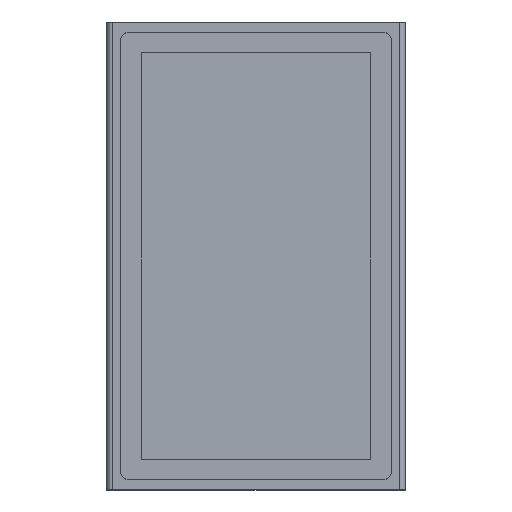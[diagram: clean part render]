
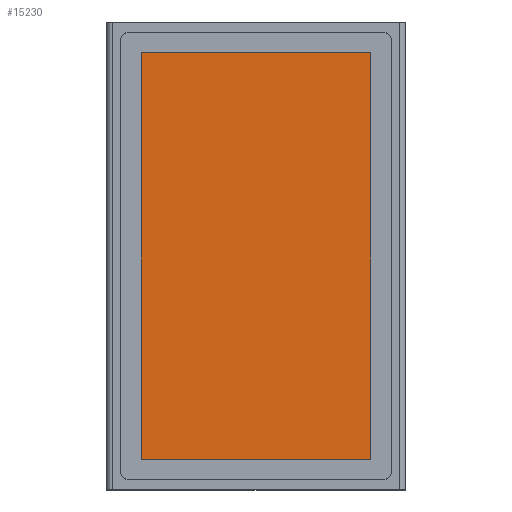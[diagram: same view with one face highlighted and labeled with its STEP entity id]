
A CAD part, top view. The second image highlights one B-rep face of the part: STEP entity #15230.
In plain terms, the highlighted planar face has unit normal (0, 0, 1).
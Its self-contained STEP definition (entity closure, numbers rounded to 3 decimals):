
#3052=DIRECTION('',(0.,1.,0.));
#3053=VECTOR('',#3052,410.4);
#3054=CARTESIAN_POINT('',(115.5,-205.2,-0.2));
#3055=LINE('',#3054,#3053);
#3056=DIRECTION('',(1.,0.,0.));
#3057=VECTOR('',#3056,231.);
#3058=CARTESIAN_POINT('',(-115.5,-205.2,-0.2));
#3059=LINE('',#3058,#3057);
#3060=DIRECTION('',(0.,-1.,0.));
#3061=VECTOR('',#3060,410.4);
#3062=CARTESIAN_POINT('',(-115.5,205.2,-0.2));
#3063=LINE('',#3062,#3061);
#3064=DIRECTION('',(-1.,0.,0.));
#3065=VECTOR('',#3064,231.);
#3066=CARTESIAN_POINT('',(115.5,205.2,-0.2));
#3067=LINE('',#3066,#3065);
#9026=CARTESIAN_POINT('',(115.5,205.2,-0.2));
#9027=VERTEX_POINT('',#9026);
#9028=CARTESIAN_POINT('',(115.5,-205.2,-0.2));
#9029=VERTEX_POINT('',#9028);
#9030=CARTESIAN_POINT('',(-115.5,-205.2,-0.2));
#9031=VERTEX_POINT('',#9030);
#9032=CARTESIAN_POINT('',(-115.5,205.2,-0.2));
#9033=VERTEX_POINT('',#9032);
#15219=CARTESIAN_POINT('',(0.,0.,-0.2));
#15220=DIRECTION('',(0.,0.,1.));
#15221=DIRECTION('',(0.,-1.,0.));
#15222=AXIS2_PLACEMENT_3D('',#15219,#15220,#15221);
#15223=PLANE('',#15222);
#15224=ORIENTED_EDGE('',*,*,#15171,.F.);
#15225=ORIENTED_EDGE('',*,*,#15186,.F.);
#15226=ORIENTED_EDGE('',*,*,#15200,.F.);
#15227=ORIENTED_EDGE('',*,*,#15213,.F.);
#15228=EDGE_LOOP('',(#15224,#15225,#15226,#15227));
#15229=FACE_OUTER_BOUND('',#15228,.F.);
#15230=ADVANCED_FACE('',(#15229),#15223,.T.);
#15171=EDGE_CURVE('',#9029,#9027,#3055,.T.);
#15186=EDGE_CURVE('',#9031,#9029,#3059,.T.);
#15200=EDGE_CURVE('',#9033,#9031,#3063,.T.);
#15213=EDGE_CURVE('',#9027,#9033,#3067,.T.);
